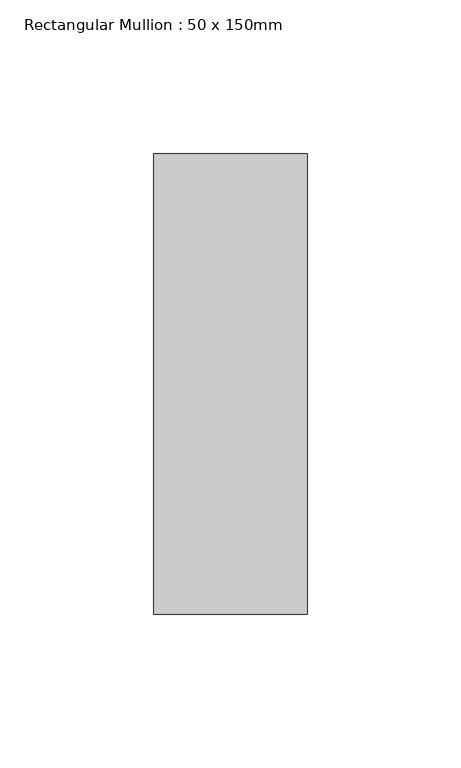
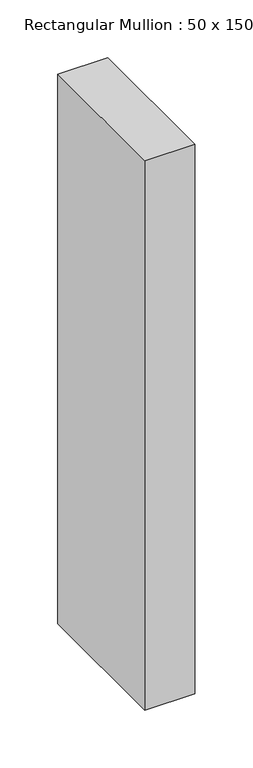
"""IFC4 building model written with IfcOpenShell, lengths in millimetres: member geometry, Rectangular Mullion : 50 x 150mm."""

from ifc_helpers import new_model, si_unit, frame, origin, place, context, project, spatial, polyline, outline, extrude, source, transform, mapped, element, save


def rectangular_mullion_50_x_150mm_17927dfe(model_context):
    return source(origin(), model_context, "Body", "SweptSolid", [
        extrude(outline(polyline([(25.0, 75.0), (25.0, -75.0), (-25.0, -75.0), (-25.0, 75.0), (25.0, 75.0)])), frame((0.0, 0.0, -580.0), z_axis=(0.0, 0.0, 1.0), x_axis=(1.0, 0.0, 0.0)), (0.0, 0.0, 1.0), 580.0),
    ])


if __name__ == "__main__":
    model = new_model("IFC4")
    model_context = context("Model", 3, world=origin())
    ifc_project = project(units=[si_unit("LENGTHUNIT", "METRE", prefix="MILLI")], contexts=[model_context])
    site = spatial("IfcSite", under=ifc_project)
    building = spatial("IfcBuilding", under=site)
    placement = place(None, origin())
    rectangular_mullion_50_x_150mm_shape = rectangular_mullion_50_x_150mm_17927dfe(model_context)
    element("IfcMember", 1, ObjectType="Rectangular Mullion : 50 x 150mm", at=placement, inside=building, context=model_context, shape_type="MappedRepresentation", body=[
        mapped(rectangular_mullion_50_x_150mm_shape, transform((0.0, 0.0, 0.0), x_axis=(1.0, 0.0, 0.0), y_axis=(0.0, 1.0, 0.0), z_axis=(0.0, 0.0, 1.0))),
    ])
    save(model, "model.ifc")
